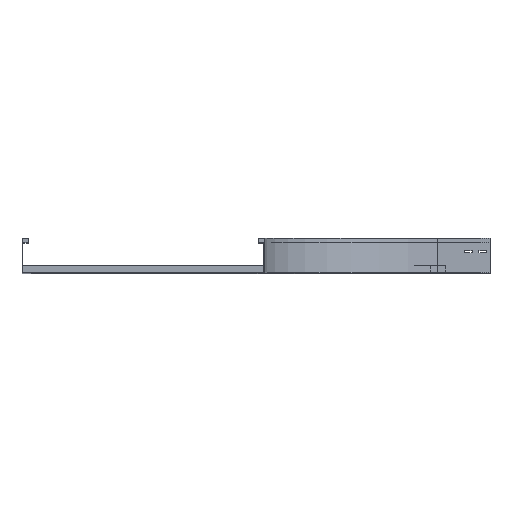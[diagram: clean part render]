
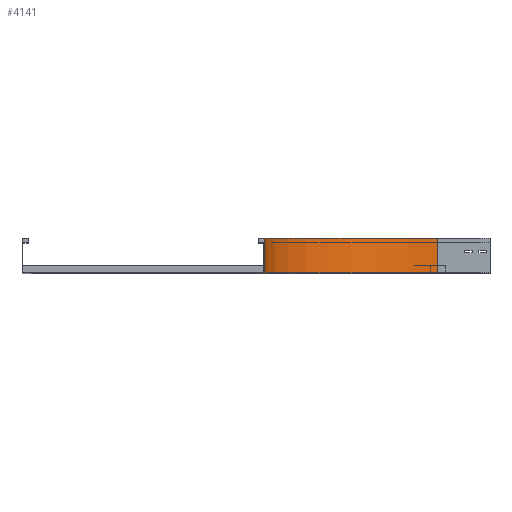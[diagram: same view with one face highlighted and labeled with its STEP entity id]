
A CAD part, top view. The second image highlights one B-rep face of the part: STEP entity #4141.
In plain terms, the highlighted cylindrical face has radius 500 mm (diameter 1000 mm), a partial arc.
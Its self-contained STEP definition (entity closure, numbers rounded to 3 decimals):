
#133 = CARTESIAN_POINT ( 'NONE',  ( 0., 100., -150. ) ) ;
#190 = LINE ( 'NONE', #3446, #4016 ) ;
#502 = AXIS2_PLACEMENT_3D ( 'NONE', #1883, #3209, #1562 ) ;
#516 = CARTESIAN_POINT ( 'NONE',  ( 500., 100., -650. ) ) ;
#671 = CARTESIAN_POINT ( 'NONE',  ( 500., 100., -150. ) ) ;
#973 = DIRECTION ( 'NONE',  ( 0., -1., 0. ) ) ;
#1173 = CARTESIAN_POINT ( 'NONE',  ( 500., 0., -650. ) ) ;
#1222 = VERTEX_POINT ( 'NONE', #133 ) ;
#1233 = CIRCLE ( 'NONE', #2115, 500. ) ;
#1382 = DIRECTION ( 'NONE',  ( 0., -1., 0. ) ) ;
#1491 = DIRECTION ( 'NONE',  ( 0., 1., 0. ) ) ;
#1562 = DIRECTION ( 'NONE',  ( 0., 0., -1. ) ) ;
#1640 = DIRECTION ( 'NONE',  ( -1., 0., 0. ) ) ;
#1696 = DIRECTION ( 'NONE',  ( 0., 1., 0. ) ) ;
#1724 = CARTESIAN_POINT ( 'NONE',  ( 500., 0., -150. ) ) ;
#1835 = CIRCLE ( 'NONE', #3506, 500. ) ;
#1883 = CARTESIAN_POINT ( 'NONE',  ( 500., 0., -150. ) ) ;
#1908 = ORIENTED_EDGE ( 'NONE', *, *, #2405, .F. ) ;
#1967 = FACE_OUTER_BOUND ( 'NONE', #3525, .T. ) ;
#2115 = AXIS2_PLACEMENT_3D ( 'NONE', #1724, #1382, #3651 ) ;
#2228 = ORIENTED_EDGE ( 'NONE', *, *, #3780, .F. ) ;
#2342 = LINE ( 'NONE', #3998, #2502 ) ;
#2405 = EDGE_CURVE ( 'NONE', #1222, #3725, #1835, .T. ) ;
#2502 = VECTOR ( 'NONE', #1696, 1000. ) ;
#2789 = CARTESIAN_POINT ( 'NONE',  ( 0., 0., -150. ) ) ;
#2808 = EDGE_CURVE ( 'NONE', #3699, #3725, #2342, .T. ) ;
#2857 = CYLINDRICAL_SURFACE ( 'NONE', #502, 500. ) ;
#3209 = DIRECTION ( 'NONE',  ( 0., -1., 0. ) ) ;
#3357 = ORIENTED_EDGE ( 'NONE', *, *, #3585, .T. ) ;
#3382 = ORIENTED_EDGE ( 'NONE', *, *, #2808, .T. ) ;
#3407 = VERTEX_POINT ( 'NONE', #2789 ) ;
#3446 = CARTESIAN_POINT ( 'NONE',  ( 0., 0., -150. ) ) ;
#3506 = AXIS2_PLACEMENT_3D ( 'NONE', #671, #973, #1640 ) ;
#3525 = EDGE_LOOP ( 'NONE', ( #1908, #2228, #3357, #3382 ) ) ;
#3585 = EDGE_CURVE ( 'NONE', #3407, #3699, #1233, .T. ) ;
#3651 = DIRECTION ( 'NONE',  ( -1., 0., 0. ) ) ;
#3699 = VERTEX_POINT ( 'NONE', #1173 ) ;
#3725 = VERTEX_POINT ( 'NONE', #516 ) ;
#3780 = EDGE_CURVE ( 'NONE', #3407, #1222, #190, .T. ) ;
#3998 = CARTESIAN_POINT ( 'NONE',  ( 500., 0., -650. ) ) ;
#4016 = VECTOR ( 'NONE', #1491, 1000. ) ;
#4141 = ADVANCED_FACE ( 'NONE', ( #1967 ), #2857, .F. ) ;
